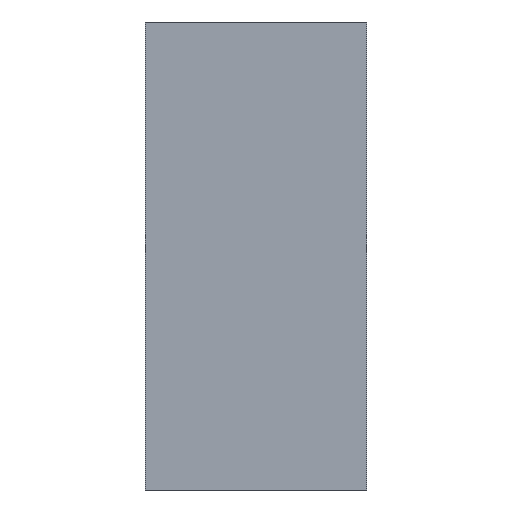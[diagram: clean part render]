
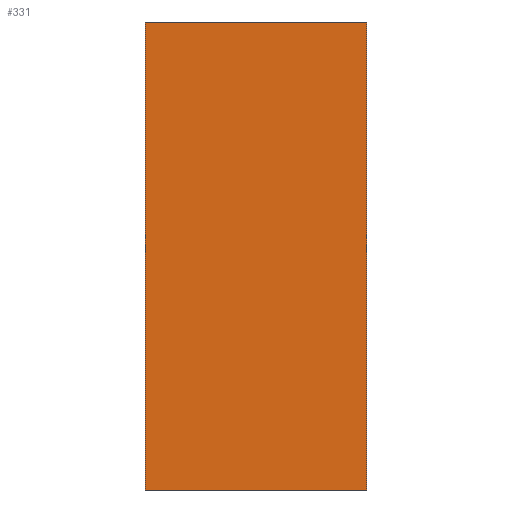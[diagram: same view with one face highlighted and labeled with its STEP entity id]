
A CAD part, front view. The second image highlights one B-rep face of the part: STEP entity #331.
In plain terms, the highlighted planar face has unit normal (0, -1, 0).
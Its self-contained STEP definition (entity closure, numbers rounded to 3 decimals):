
#165 = VERTEX_POINT('',#166);
#166 = CARTESIAN_POINT('',(8.75,3.,-63.55));
#174 = VERTEX_POINT('',#175);
#175 = CARTESIAN_POINT('',(8.75,3.,-100.55));
#181 = EDGE_CURVE('',#165,#174,#182,.T.);
#182 = LINE('',#183,#184);
#183 = CARTESIAN_POINT('',(8.75,3.,-63.55));
#184 = VECTOR('',#185,1.);
#185 = DIRECTION('',(0.,0.,-1.));
#196 = VERTEX_POINT('',#197);
#197 = CARTESIAN_POINT('',(-8.75,3.,-63.55));
#205 = EDGE_CURVE('',#196,#165,#206,.T.);
#206 = LINE('',#207,#208);
#207 = CARTESIAN_POINT('',(-8.75,3.,-63.55));
#208 = VECTOR('',#209,1.);
#209 = DIRECTION('',(1.,0.,0.));
#222 = VERTEX_POINT('',#223);
#223 = CARTESIAN_POINT('',(-8.75,3.,-100.55));
#229 = EDGE_CURVE('',#174,#222,#230,.T.);
#230 = LINE('',#231,#232);
#231 = CARTESIAN_POINT('',(8.75,3.,-100.55));
#232 = VECTOR('',#233,1.);
#233 = DIRECTION('',(-1.,0.,0.));
#246 = EDGE_CURVE('',#222,#196,#247,.T.);
#247 = LINE('',#248,#249);
#248 = CARTESIAN_POINT('',(-8.75,3.,-100.55));
#249 = VECTOR('',#250,1.);
#250 = DIRECTION('',(0.,0.,1.));
#331 = ADVANCED_FACE('',(#332),#338,.F.);
#332 = FACE_BOUND('',#333,.F.);
#333 = EDGE_LOOP('',(#334,#335,#336,#337));
#334 = ORIENTED_EDGE('',*,*,#181,.T.);
#335 = ORIENTED_EDGE('',*,*,#229,.T.);
#336 = ORIENTED_EDGE('',*,*,#246,.T.);
#337 = ORIENTED_EDGE('',*,*,#205,.T.);
#338 = PLANE('',#339);
#339 = AXIS2_PLACEMENT_3D('',#340,#341,#342);
#340 = CARTESIAN_POINT('',(0.,3.,-82.05));
#341 = DIRECTION('',(0.,1.,0.));
#342 = DIRECTION('',(0.,0.,1.));
